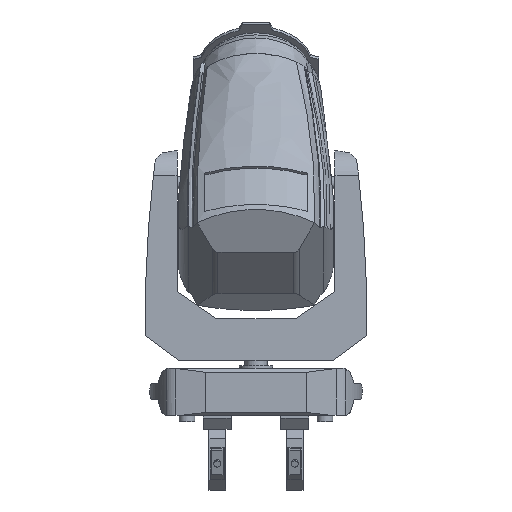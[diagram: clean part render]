
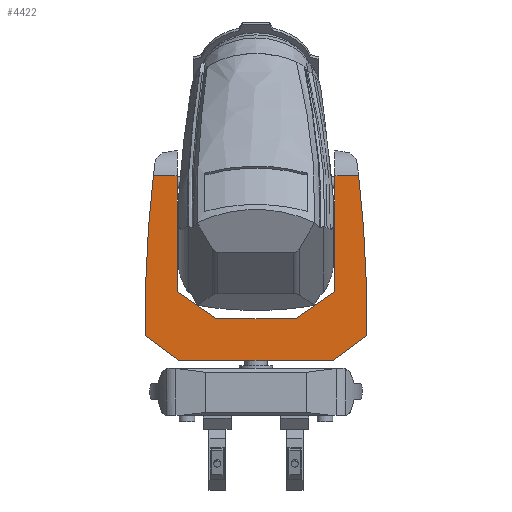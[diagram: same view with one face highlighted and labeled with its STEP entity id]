
A CAD part, left-side view. The second image highlights one B-rep face of the part: STEP entity #4422.
In plain terms, the highlighted planar face has unit normal (-1, 0, 0).
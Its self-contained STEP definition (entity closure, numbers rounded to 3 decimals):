
#349=CIRCLE('',#4814,2158.421);
#350=CIRCLE('',#4815,2158.421);
#797=ORIENTED_EDGE('',*,*,#1916,.T.);
#798=ORIENTED_EDGE('',*,*,#1919,.T.);
#799=ORIENTED_EDGE('',*,*,#1920,.T.);
#800=ORIENTED_EDGE('',*,*,#1921,.T.);
#801=ORIENTED_EDGE('',*,*,#1922,.T.);
#802=ORIENTED_EDGE('',*,*,#1923,.T.);
#803=ORIENTED_EDGE('',*,*,#1909,.T.);
#804=ORIENTED_EDGE('',*,*,#1924,.T.);
#805=ORIENTED_EDGE('',*,*,#1925,.T.);
#806=ORIENTED_EDGE('',*,*,#1926,.F.);
#807=ORIENTED_EDGE('',*,*,#1927,.T.);
#808=ORIENTED_EDGE('',*,*,#1928,.T.);
#1909=EDGE_CURVE('',#2503,#2504,#2917,.T.);
#1916=EDGE_CURVE('',#2511,#2510,#2918,.T.);
#1919=EDGE_CURVE('',#2510,#2513,#2919,.T.);
#1920=EDGE_CURVE('',#2513,#2514,#2920,.T.);
#1921=EDGE_CURVE('',#2514,#2515,#2921,.T.);
#1922=EDGE_CURVE('',#2515,#2516,#2922,.T.);
#1923=EDGE_CURVE('',#2516,#2503,#2923,.T.);
#1924=EDGE_CURVE('',#2504,#2517,#349,.T.);
#1925=EDGE_CURVE('',#2517,#2518,#2924,.T.);
#1926=EDGE_CURVE('',#2519,#2518,#2925,.T.);
#1927=EDGE_CURVE('',#2519,#2520,#2926,.T.);
#1928=EDGE_CURVE('',#2520,#2511,#350,.T.);
#2503=VERTEX_POINT('',#6885);
#2504=VERTEX_POINT('',#6886);
#2510=VERTEX_POINT('',#6905);
#2511=VERTEX_POINT('',#6907);
#2513=VERTEX_POINT('',#6919);
#2514=VERTEX_POINT('',#6921);
#2515=VERTEX_POINT('',#6923);
#2516=VERTEX_POINT('',#6925);
#2517=VERTEX_POINT('',#6928);
#2518=VERTEX_POINT('',#6930);
#2519=VERTEX_POINT('',#6932);
#2520=VERTEX_POINT('',#6934);
#2917=LINE('',#6884,#3273);
#2918=LINE('',#6906,#3274);
#2919=LINE('',#6918,#3275);
#2920=LINE('',#6920,#3276);
#2921=LINE('',#6922,#3277);
#2922=LINE('',#6924,#3278);
#2923=LINE('',#6926,#3279);
#2924=LINE('',#6929,#3280);
#2925=LINE('',#6931,#3281);
#2926=LINE('',#6933,#3282);
#3273=VECTOR('',#5447,1000.);
#3274=VECTOR('',#5460,1000.);
#3275=VECTOR('',#5465,1000.);
#3276=VECTOR('',#5466,1000.);
#3277=VECTOR('',#5467,1000.);
#3278=VECTOR('',#5468,1000.);
#3279=VECTOR('',#5469,1000.);
#3280=VECTOR('',#5472,1000.);
#3281=VECTOR('',#5473,1000.);
#3282=VECTOR('',#5474,1000.);
#3629=EDGE_LOOP('',(#797,#798,#799,#800,#801,#802,#803,#804,#805,#806,#807,
#808));
#3955=FACE_BOUND('',#3629,.T.);
#4232=PLANE('',#4813);
#4422=ADVANCED_FACE('',(#3955),#4232,.T.);
#4813=AXIS2_PLACEMENT_3D('',#6917,#5463,#5464);
#4814=AXIS2_PLACEMENT_3D('',#6927,#5470,#5471);
#4815=AXIS2_PLACEMENT_3D('',#6935,#5475,#5476);
#5447=DIRECTION('',(0.,1.,0.));
#5460=DIRECTION('',(0.,1.,0.));
#5463=DIRECTION('',(-1.,0.,0.));
#5464=DIRECTION('',(0.,0.,1.));
#5465=DIRECTION('',(0.,0.,-1.));
#5466=DIRECTION('',(0.,0.826,-0.564));
#5467=DIRECTION('',(0.,1.,0.));
#5468=DIRECTION('',(0.,0.826,0.564));
#5469=DIRECTION('',(0.,0.,1.));
#5470=DIRECTION('',(-1.,0.,0.));
#5471=DIRECTION('',(0.,0.,1.));
#5472=DIRECTION('',(0.,-0.805,-0.593));
#5473=DIRECTION('',(0.,1.,0.));
#5474=DIRECTION('',(0.,-0.805,0.593));
#5475=DIRECTION('',(-1.,0.,0.));
#5476=DIRECTION('',(0.,0.,1.));
#6884=CARTESIAN_POINT('',(-56.772,-225.,422.833));
#6885=CARTESIAN_POINT('',(-56.772,142.712,422.833));
#6886=CARTESIAN_POINT('',(-56.772,185.433,422.833));
#6905=CARTESIAN_POINT('',(-56.772,-142.712,422.833));
#6906=CARTESIAN_POINT('',(-56.772,-225.,422.833));
#6907=CARTESIAN_POINT('',(-56.772,-185.433,422.833));
#6917=CARTESIAN_POINT('',(-56.772,-225.,89.663));
#6918=CARTESIAN_POINT('',(-56.772,-142.712,89.663));
#6919=CARTESIAN_POINT('',(-56.772,-142.712,213.541));
#6920=CARTESIAN_POINT('',(-56.772,-141.122,212.455));
#6921=CARTESIAN_POINT('',(-56.772,-70.61,164.289));
#6922=CARTESIAN_POINT('',(-56.772,-225.,164.289));
#6923=CARTESIAN_POINT('',(-56.772,70.61,164.289));
#6924=CARTESIAN_POINT('',(-56.772,-165.707,2.863));
#6925=CARTESIAN_POINT('',(-56.772,142.712,213.541));
#6926=CARTESIAN_POINT('',(-56.772,142.712,89.663));
#6927=CARTESIAN_POINT('',(-56.772,-1958.344,171.826));
#6928=CARTESIAN_POINT('',(-56.772,199.742,133.772));
#6929=CARTESIAN_POINT('',(-56.772,-96.853,-84.482));
#6930=CARTESIAN_POINT('',(-56.772,139.801,89.663));
#6931=CARTESIAN_POINT('',(-56.772,-225.,89.663));
#6932=CARTESIAN_POINT('',(-56.772,-139.801,89.663));
#6933=CARTESIAN_POINT('',(-56.772,-195.071,130.335));
#6934=CARTESIAN_POINT('',(-56.772,-199.742,133.772));
#6935=CARTESIAN_POINT('',(-56.772,1958.344,171.826));
